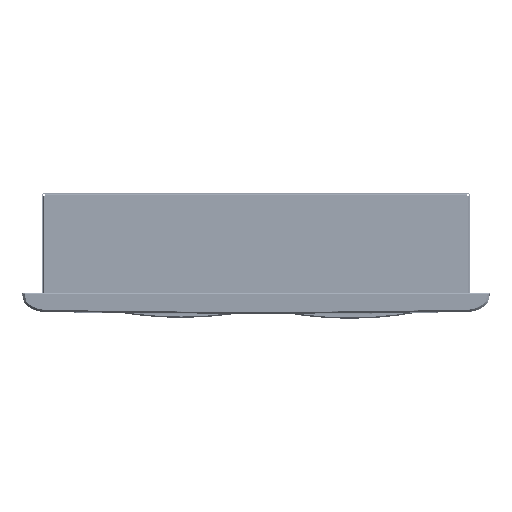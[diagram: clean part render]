
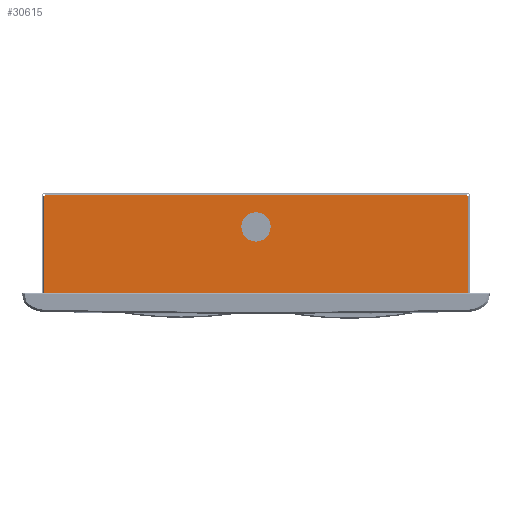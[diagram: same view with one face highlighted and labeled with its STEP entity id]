
A CAD part, left-side view. The second image highlights one B-rep face of the part: STEP entity #30615.
In plain terms, the highlighted planar face has unit normal (-1, 0, 0).
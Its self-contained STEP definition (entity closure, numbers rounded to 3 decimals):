
#97 = EDGE_CURVE ( 'NONE', #118221, #284690, #77119, .T. ) ;
#2945 = CARTESIAN_POINT ( 'NONE',  ( -11., 3.799, -188. ) ) ;
#4772 = CARTESIAN_POINT ( 'NONE',  ( -11., -55., 0. ) ) ;
#5915 = VECTOR ( 'NONE', #178962, 1000. ) ;
#12741 = DIRECTION ( 'NONE',  ( 0., 1., 0. ) ) ;
#13257 = EDGE_CURVE ( 'NONE', #284690, #118221, #192053, .T. ) ;
#13399 = DIRECTION ( 'NONE',  ( 0., 1., 0. ) ) ;
#14148 = EDGE_CURVE ( 'NONE', #160838, #301108, #39334, .T. ) ;
#15955 = ORIENTED_EDGE ( 'NONE', *, *, #313036, .F. ) ;
#18219 = CARTESIAN_POINT ( 'NONE',  ( -11., 5., 189. ) ) ;
#30615 = ADVANCED_FACE ( 'NONE', ( #36209, #135473 ), #111073, .F. ) ;
#36209 = FACE_BOUND ( 'NONE', #187352, .T. ) ;
#39334 = LINE ( 'NONE', #115821, #122104 ) ;
#41342 = CARTESIAN_POINT ( 'NONE',  ( -11., -82.8, 189. ) ) ;
#46203 = CARTESIAN_POINT ( 'NONE',  ( -11., -82.8, 187.8 ) ) ;
#47641 = CARTESIAN_POINT ( 'NONE',  ( -11., -82.8, -187.8 ) ) ;
#48022 = EDGE_CURVE ( 'NONE', #283025, #265899, #156066, .T. ) ;
#56816 = LINE ( 'NONE', #305694, #235978 ) ;
#58514 = ORIENTED_EDGE ( 'NONE', *, *, #14148, .F. ) ;
#60767 = ORIENTED_EDGE ( 'NONE', *, *, #280292, .T. ) ;
#69523 = CARTESIAN_POINT ( 'NONE',  ( -11., 5., 187.8 ) ) ;
#75477 = VERTEX_POINT ( 'NONE', #88061 ) ;
#77119 = CIRCLE ( 'NONE', #82412, 13. ) ;
#82412 = AXIS2_PLACEMENT_3D ( 'NONE', #4772, #104056, #203327 ) ;
#82895 = CARTESIAN_POINT ( 'NONE',  ( -11., 5., 182.8 ) ) ;
#83723 = EDGE_CURVE ( 'NONE', #86721, #131084, #87431, .T. ) ;
#86721 = VERTEX_POINT ( 'NONE', #234120 ) ;
#87431 = LINE ( 'NONE', #162316, #316315 ) ;
#88061 = CARTESIAN_POINT ( 'NONE',  ( -11., 3.799, 188. ) ) ;
#94978 = VECTOR ( 'NONE', #232867, 1000. ) ;
#96996 = CARTESIAN_POINT ( 'NONE',  ( -11., -55., 0. ) ) ;
#104056 = DIRECTION ( 'NONE',  ( -1., 0., 0. ) ) ;
#110690 = EDGE_CURVE ( 'NONE', #310334, #167928, #123164, .T. ) ;
#111073 = PLANE ( 'NONE',  #192465 ) ;
#113439 = LINE ( 'NONE', #219135, #138954 ) ;
#114042 = VERTEX_POINT ( 'NONE', #288037 ) ;
#115821 = CARTESIAN_POINT ( 'NONE',  ( -11., 5., -187.8 ) ) ;
#118221 = VERTEX_POINT ( 'NONE', #123125 ) ;
#122104 = VECTOR ( 'NONE', #239433, 1000. ) ;
#123125 = CARTESIAN_POINT ( 'NONE',  ( -11., -42., 0. ) ) ;
#123164 = LINE ( 'NONE', #69523, #303996 ) ;
#126104 = EDGE_LOOP ( 'NONE', ( #318578, #254798, #58514, #15955, #308721, #253518, #217530, #60767, #171567, #173659, #319940, #147321 ) ) ;
#126302 = CARTESIAN_POINT ( 'NONE',  ( -11., -83., 187.8 ) ) ;
#129604 = EDGE_CURVE ( 'NONE', #265899, #114042, #56816, .T. ) ;
#131084 = VERTEX_POINT ( 'NONE', #151305 ) ;
#134904 = LINE ( 'NONE', #227767, #5915 ) ;
#135473 = FACE_OUTER_BOUND ( 'NONE', #126104, .T. ) ;
#137852 = DIRECTION ( 'NONE',  ( 0., 0., -1. ) ) ;
#138954 = VECTOR ( 'NONE', #212683, 1000. ) ;
#141794 = VERTEX_POINT ( 'NONE', #198355 ) ;
#147321 = ORIENTED_EDGE ( 'NONE', *, *, #129604, .F. ) ;
#150149 = DIRECTION ( 'NONE',  ( 0., 0., 1. ) ) ;
#151305 = CARTESIAN_POINT ( 'NONE',  ( -11., 4., -182.8 ) ) ;
#156066 = LINE ( 'NONE', #279633, #274360 ) ;
#156461 = ORIENTED_EDGE ( 'NONE', *, *, #97, .F. ) ;
#157503 = LINE ( 'NONE', #230675, #172772 ) ;
#160838 = VERTEX_POINT ( 'NONE', #202836 ) ;
#162316 = CARTESIAN_POINT ( 'NONE',  ( -11., 4., 189. ) ) ;
#165042 = LINE ( 'NONE', #41342, #249854 ) ;
#166728 = EDGE_CURVE ( 'NONE', #310334, #298932, #165042, .T. ) ;
#167197 = VECTOR ( 'NONE', #282657, 1000. ) ;
#167670 = EDGE_CURVE ( 'NONE', #75477, #298932, #279447, .T. ) ;
#167928 = VERTEX_POINT ( 'NONE', #126302 ) ;
#171567 = ORIENTED_EDGE ( 'NONE', *, *, #211490, .T. ) ;
#172772 = VECTOR ( 'NONE', #305470, 1000. ) ;
#173659 = ORIENTED_EDGE ( 'NONE', *, *, #83723, .T. ) ;
#178962 = DIRECTION ( 'NONE',  ( 0., -1., 0. ) ) ;
#186701 = AXIS2_PLACEMENT_3D ( 'NONE', #96996, #319837, #243397 ) ;
#187352 = EDGE_LOOP ( 'NONE', ( #229145, #156461 ) ) ;
#192053 = CIRCLE ( 'NONE', #186701, 13. ) ;
#192465 = AXIS2_PLACEMENT_3D ( 'NONE', #18219, #239514, #13399 ) ;
#198355 = CARTESIAN_POINT ( 'NONE',  ( -11., 3.799, 182.8 ) ) ;
#202836 = CARTESIAN_POINT ( 'NONE',  ( -11., -83., -187.8 ) ) ;
#203327 = DIRECTION ( 'NONE',  ( 0., -1., 0. ) ) ;
#211413 = EDGE_CURVE ( 'NONE', #131084, #114042, #134904, .T. ) ;
#211490 = EDGE_CURVE ( 'NONE', #141794, #86721, #278139, .T. ) ;
#211664 = LINE ( 'NONE', #310877, #94978 ) ;
#212683 = DIRECTION ( 'NONE',  ( 0., 0., -1. ) ) ;
#217530 = ORIENTED_EDGE ( 'NONE', *, *, #167670, .F. ) ;
#218955 = VECTOR ( 'NONE', #260172, 1000. ) ;
#219135 = CARTESIAN_POINT ( 'NONE',  ( -11., -82.8, 189. ) ) ;
#222414 = DIRECTION ( 'NONE',  ( 0., -1., 0. ) ) ;
#227767 = CARTESIAN_POINT ( 'NONE',  ( -11., 5., -182.8 ) ) ;
#229145 = ORIENTED_EDGE ( 'NONE', *, *, #13257, .F. ) ;
#230675 = CARTESIAN_POINT ( 'NONE',  ( -11., -83., 189. ) ) ;
#232867 = DIRECTION ( 'NONE',  ( 0., 0., -1. ) ) ;
#234120 = CARTESIAN_POINT ( 'NONE',  ( -11., 4., 182.8 ) ) ;
#235978 = VECTOR ( 'NONE', #150149, 1000. ) ;
#238234 = CARTESIAN_POINT ( 'NONE',  ( -11., -68., 0. ) ) ;
#239433 = DIRECTION ( 'NONE',  ( 0., 1., 0. ) ) ;
#239514 = DIRECTION ( 'NONE',  ( 1., 0., 0. ) ) ;
#239843 = DIRECTION ( 'NONE',  ( 0., 0., 1. ) ) ;
#243397 = DIRECTION ( 'NONE',  ( 0., -1., 0. ) ) ;
#249854 = VECTOR ( 'NONE', #239843, 1000. ) ;
#253518 = ORIENTED_EDGE ( 'NONE', *, *, #166728, .T. ) ;
#254798 = ORIENTED_EDGE ( 'NONE', *, *, #255072, .F. ) ;
#255072 = EDGE_CURVE ( 'NONE', #301108, #283025, #113439, .T. ) ;
#260172 = DIRECTION ( 'NONE',  ( 0., 1., 0. ) ) ;
#265899 = VERTEX_POINT ( 'NONE', #2945 ) ;
#274360 = VECTOR ( 'NONE', #12741, 1000. ) ;
#278139 = LINE ( 'NONE', #82895, #218955 ) ;
#279447 = LINE ( 'NONE', #307086, #167197 ) ;
#279633 = CARTESIAN_POINT ( 'NONE',  ( -11., 3.799, -188. ) ) ;
#280292 = EDGE_CURVE ( 'NONE', #75477, #141794, #211664, .T. ) ;
#282657 = DIRECTION ( 'NONE',  ( 0., -1., 0. ) ) ;
#283025 = VERTEX_POINT ( 'NONE', #290594 ) ;
#284690 = VERTEX_POINT ( 'NONE', #238234 ) ;
#288037 = CARTESIAN_POINT ( 'NONE',  ( -11., 3.799, -182.8 ) ) ;
#290594 = CARTESIAN_POINT ( 'NONE',  ( -11., -82.8, -188. ) ) ;
#298932 = VERTEX_POINT ( 'NONE', #313223 ) ;
#301108 = VERTEX_POINT ( 'NONE', #47641 ) ;
#303996 = VECTOR ( 'NONE', #222414, 1000. ) ;
#305470 = DIRECTION ( 'NONE',  ( 0., 0., -1. ) ) ;
#305694 = CARTESIAN_POINT ( 'NONE',  ( -11., 3.799, 189. ) ) ;
#307086 = CARTESIAN_POINT ( 'NONE',  ( -11., -82.8, 188. ) ) ;
#308721 = ORIENTED_EDGE ( 'NONE', *, *, #110690, .F. ) ;
#310334 = VERTEX_POINT ( 'NONE', #46203 ) ;
#310877 = CARTESIAN_POINT ( 'NONE',  ( -11., 3.799, 189. ) ) ;
#313036 = EDGE_CURVE ( 'NONE', #167928, #160838, #157503, .T. ) ;
#313223 = CARTESIAN_POINT ( 'NONE',  ( -11., -82.8, 188. ) ) ;
#316315 = VECTOR ( 'NONE', #137852, 1000. ) ;
#318578 = ORIENTED_EDGE ( 'NONE', *, *, #48022, .F. ) ;
#319837 = DIRECTION ( 'NONE',  ( -1., 0., 0. ) ) ;
#319940 = ORIENTED_EDGE ( 'NONE', *, *, #211413, .T. ) ;
